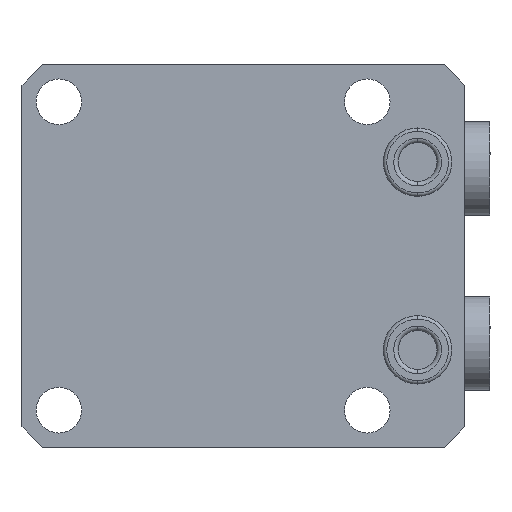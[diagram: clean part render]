
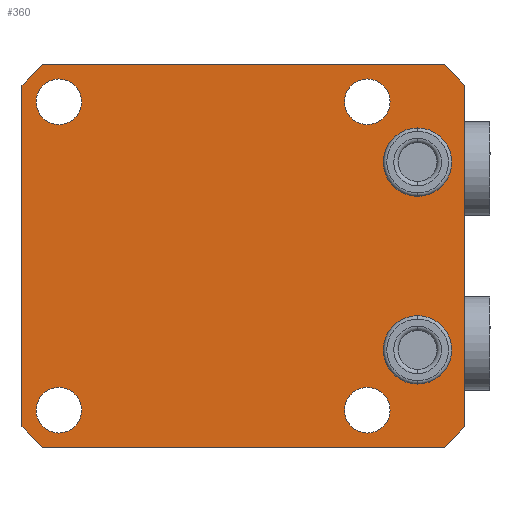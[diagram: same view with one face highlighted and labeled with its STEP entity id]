
A CAD part, front view. The second image highlights one B-rep face of the part: STEP entity #360.
In plain terms, the highlighted planar face has unit normal (0, -1, 0).
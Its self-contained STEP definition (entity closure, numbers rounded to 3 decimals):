
#232=PLANE('',#2653);
#288=FACE_BOUND('',#699,.T.);
#289=FACE_BOUND('',#700,.T.);
#290=FACE_BOUND('',#701,.T.);
#291=FACE_BOUND('',#702,.T.);
#292=FACE_BOUND('',#703,.T.);
#293=FACE_BOUND('',#704,.T.);
#294=FACE_BOUND('',#705,.T.);
#360=ADVANCED_FACE('',(#288,#289,#290,#291,#292,#293,#294),#232,.F.);
#699=EDGE_LOOP('',(#1094,#1095,#1096,#1097,#1098,#1099,#1100,#1101));
#700=EDGE_LOOP('',(#1102,#1103));
#701=EDGE_LOOP('',(#1104,#1105));
#702=EDGE_LOOP('',(#1106,#1107));
#703=EDGE_LOOP('',(#1108,#1109));
#704=EDGE_LOOP('',(#1110,#1111));
#705=EDGE_LOOP('',(#1112,#1113));
#871=CIRCLE('',#2608,5.1);
#887=CIRCLE('',#2629,5.1);
#888=CIRCLE('',#2631,3.4);
#890=CIRCLE('',#2634,3.4);
#892=CIRCLE('',#2637,3.4);
#894=CIRCLE('',#2640,3.4);
#898=CIRCLE('',#2647,3.4);
#899=CIRCLE('',#2648,3.4);
#900=CIRCLE('',#2649,3.4);
#901=CIRCLE('',#2650,3.4);
#902=CIRCLE('',#2651,5.1);
#903=CIRCLE('',#2652,5.1);
#1094=ORIENTED_EDGE('',*,*,#2005,.F.);
#1095=ORIENTED_EDGE('',*,*,#2006,.T.);
#1096=ORIENTED_EDGE('',*,*,#2007,.F.);
#1097=ORIENTED_EDGE('',*,*,#2008,.T.);
#1098=ORIENTED_EDGE('',*,*,#1928,.F.);
#1099=ORIENTED_EDGE('',*,*,#2009,.T.);
#1100=ORIENTED_EDGE('',*,*,#2010,.F.);
#1101=ORIENTED_EDGE('',*,*,#2011,.T.);
#1102=ORIENTED_EDGE('',*,*,#1985,.F.);
#1103=ORIENTED_EDGE('',*,*,#2012,.F.);
#1104=ORIENTED_EDGE('',*,*,#1981,.F.);
#1105=ORIENTED_EDGE('',*,*,#2013,.F.);
#1106=ORIENTED_EDGE('',*,*,#1977,.F.);
#1107=ORIENTED_EDGE('',*,*,#2014,.F.);
#1108=ORIENTED_EDGE('',*,*,#1973,.F.);
#1109=ORIENTED_EDGE('',*,*,#2015,.F.);
#1110=ORIENTED_EDGE('',*,*,#2016,.F.);
#1111=ORIENTED_EDGE('',*,*,#1971,.F.);
#1112=ORIENTED_EDGE('',*,*,#1951,.T.);
#1113=ORIENTED_EDGE('',*,*,#2017,.T.);
#1706=VERTEX_POINT('',#3669);
#1707=VERTEX_POINT('',#3671);
#1724=VERTEX_POINT('',#3716);
#1725=VERTEX_POINT('',#3718);
#1738=VERTEX_POINT('',#3755);
#1739=VERTEX_POINT('',#3757);
#1740=VERTEX_POINT('',#3761);
#1741=VERTEX_POINT('',#3762);
#1744=VERTEX_POINT('',#3770);
#1745=VERTEX_POINT('',#3771);
#1748=VERTEX_POINT('',#3779);
#1749=VERTEX_POINT('',#3780);
#1752=VERTEX_POINT('',#3788);
#1753=VERTEX_POINT('',#3789);
#1772=VERTEX_POINT('',#3868);
#1773=VERTEX_POINT('',#3869);
#1774=VERTEX_POINT('',#3871);
#1775=VERTEX_POINT('',#3873);
#1776=VERTEX_POINT('',#3876);
#1777=VERTEX_POINT('',#3878);
#1928=EDGE_CURVE('',#1706,#1707,#2271,.T.);
#1951=EDGE_CURVE('',#1725,#1724,#871,.T.);
#1971=EDGE_CURVE('',#1738,#1739,#887,.T.);
#1973=EDGE_CURVE('',#1740,#1741,#888,.T.);
#1977=EDGE_CURVE('',#1744,#1745,#890,.T.);
#1981=EDGE_CURVE('',#1748,#1749,#892,.T.);
#1985=EDGE_CURVE('',#1752,#1753,#894,.T.);
#2005=EDGE_CURVE('',#1772,#1773,#2295,.T.);
#2006=EDGE_CURVE('',#1772,#1774,#2296,.T.);
#2007=EDGE_CURVE('',#1775,#1774,#2297,.T.);
#2008=EDGE_CURVE('',#1775,#1707,#2298,.T.);
#2009=EDGE_CURVE('',#1706,#1776,#2299,.T.);
#2010=EDGE_CURVE('',#1777,#1776,#2300,.T.);
#2011=EDGE_CURVE('',#1777,#1773,#2301,.T.);
#2012=EDGE_CURVE('',#1753,#1752,#898,.T.);
#2013=EDGE_CURVE('',#1749,#1748,#899,.T.);
#2014=EDGE_CURVE('',#1745,#1744,#900,.T.);
#2015=EDGE_CURVE('',#1741,#1740,#901,.T.);
#2016=EDGE_CURVE('',#1739,#1738,#902,.T.);
#2017=EDGE_CURVE('',#1724,#1725,#903,.T.);
#2271=LINE('',#3670,#2423);
#2295=LINE('',#3867,#2447);
#2296=LINE('',#3870,#2448);
#2297=LINE('',#3872,#2449);
#2298=LINE('',#3874,#2450);
#2299=LINE('',#3875,#2451);
#2300=LINE('',#3877,#2452);
#2301=LINE('',#3879,#2453);
#2423=VECTOR('',#2908,1.);
#2447=VECTOR('',#3054,1.);
#2448=VECTOR('',#3055,1.);
#2449=VECTOR('',#3056,1.);
#2450=VECTOR('',#3057,1.);
#2451=VECTOR('',#3058,1.);
#2452=VECTOR('',#3059,1.);
#2453=VECTOR('',#3060,1.);
#2608=AXIS2_PLACEMENT_3D('',#3717,#2959,#2960);
#2629=AXIS2_PLACEMENT_3D('',#3756,#3005,#3006);
#2631=AXIS2_PLACEMENT_3D('',#3760,#3010,#3011);
#2634=AXIS2_PLACEMENT_3D('',#3769,#3018,#3019);
#2637=AXIS2_PLACEMENT_3D('',#3778,#3026,#3027);
#2640=AXIS2_PLACEMENT_3D('',#3787,#3034,#3035);
#2647=AXIS2_PLACEMENT_3D('',#3880,#3061,#3062);
#2648=AXIS2_PLACEMENT_3D('',#3881,#3063,#3064);
#2649=AXIS2_PLACEMENT_3D('',#3882,#3065,#3066);
#2650=AXIS2_PLACEMENT_3D('',#3883,#3067,#3068);
#2651=AXIS2_PLACEMENT_3D('',#3884,#3069,#3070);
#2652=AXIS2_PLACEMENT_3D('',#3885,#3071,#3072);
#2653=AXIS2_PLACEMENT_3D('',#3886,#3073,#3074);
#2908=DIRECTION('',(0.,0.,-1.));
#2959=DIRECTION('',(0.,1.,0.));
#2960=DIRECTION('',(0.,0.,1.));
#3005=DIRECTION('',(0.,-1.,0.));
#3006=DIRECTION('',(0.,0.,-1.));
#3010=DIRECTION('',(0.,-1.,0.));
#3011=DIRECTION('',(0.,0.,1.));
#3018=DIRECTION('',(0.,-1.,0.));
#3019=DIRECTION('',(0.,0.,1.));
#3026=DIRECTION('',(0.,-1.,0.));
#3027=DIRECTION('',(0.,0.,1.));
#3034=DIRECTION('',(0.,-1.,0.));
#3035=DIRECTION('',(0.,0.,1.));
#3054=DIRECTION('',(0.,0.,1.));
#3055=DIRECTION('',(0.707,0.,-0.707));
#3056=DIRECTION('',(-1.,0.,0.));
#3057=DIRECTION('',(0.707,0.,0.707));
#3058=DIRECTION('',(-0.707,0.,0.707));
#3059=DIRECTION('',(1.,0.,0.));
#3060=DIRECTION('',(-0.707,0.,-0.707));
#3061=DIRECTION('',(0.,-1.,0.));
#3062=DIRECTION('',(0.,0.,1.));
#3063=DIRECTION('',(0.,-1.,0.));
#3064=DIRECTION('',(0.,0.,1.));
#3065=DIRECTION('',(0.,-1.,0.));
#3066=DIRECTION('',(0.,0.,1.));
#3067=DIRECTION('',(0.,-1.,0.));
#3068=DIRECTION('',(0.,0.,1.));
#3069=DIRECTION('',(0.,-1.,0.));
#3070=DIRECTION('',(0.,0.,-1.));
#3071=DIRECTION('',(0.,1.,0.));
#3072=DIRECTION('',(0.,0.,1.));
#3073=DIRECTION('',(0.,1.,0.));
#3074=DIRECTION('',(0.,0.,1.));
#3669=CARTESIAN_POINT('',(37.5,0.,25.5));
#3670=CARTESIAN_POINT('',(37.5,0.,-28.5));
#3671=CARTESIAN_POINT('',(37.5,0.,-25.5));
#3716=CARTESIAN_POINT('',(30.5,0.,19.1));
#3717=CARTESIAN_POINT('',(30.5,0.,14.));
#3718=CARTESIAN_POINT('',(30.5,0.,8.9));
#3755=CARTESIAN_POINT('',(30.5,0.,-8.9));
#3756=CARTESIAN_POINT('',(30.5,0.,-14.));
#3757=CARTESIAN_POINT('',(30.5,0.,-19.1));
#3760=CARTESIAN_POINT('',(-23.,0.,23.));
#3761=CARTESIAN_POINT('',(-23.,0.,26.4));
#3762=CARTESIAN_POINT('',(-23.,0.,19.6));
#3769=CARTESIAN_POINT('',(23.,0.,23.));
#3770=CARTESIAN_POINT('',(23.,0.,26.4));
#3771=CARTESIAN_POINT('',(23.,0.,19.6));
#3778=CARTESIAN_POINT('',(-23.,0.,-23.));
#3779=CARTESIAN_POINT('',(-23.,0.,-19.6));
#3780=CARTESIAN_POINT('',(-23.,0.,-26.4));
#3787=CARTESIAN_POINT('',(23.,0.,-23.));
#3788=CARTESIAN_POINT('',(23.,0.,-19.6));
#3789=CARTESIAN_POINT('',(23.,0.,-26.4));
#3867=CARTESIAN_POINT('',(-28.5,0.,-28.5));
#3868=CARTESIAN_POINT('',(-28.5,0.,-25.5));
#3869=CARTESIAN_POINT('',(-28.5,0.,25.5));
#3870=CARTESIAN_POINT('',(-28.5,0.,-25.5));
#3871=CARTESIAN_POINT('',(-25.5,0.,-28.5));
#3872=CARTESIAN_POINT('',(-28.5,0.,-28.5));
#3873=CARTESIAN_POINT('',(34.5,0.,-28.5));
#3874=CARTESIAN_POINT('',(34.5,0.,-28.5));
#3875=CARTESIAN_POINT('',(37.5,0.,25.5));
#3876=CARTESIAN_POINT('',(34.5,0.,28.5));
#3877=CARTESIAN_POINT('',(-28.5,0.,28.5));
#3878=CARTESIAN_POINT('',(-25.5,0.,28.5));
#3879=CARTESIAN_POINT('',(-25.5,0.,28.5));
#3880=CARTESIAN_POINT('',(23.,0.,-23.));
#3881=CARTESIAN_POINT('',(-23.,0.,-23.));
#3882=CARTESIAN_POINT('',(23.,0.,23.));
#3883=CARTESIAN_POINT('',(-23.,0.,23.));
#3884=CARTESIAN_POINT('',(30.5,0.,-14.));
#3885=CARTESIAN_POINT('',(30.5,0.,14.));
#3886=CARTESIAN_POINT('',(-28.5,0.,28.5));
